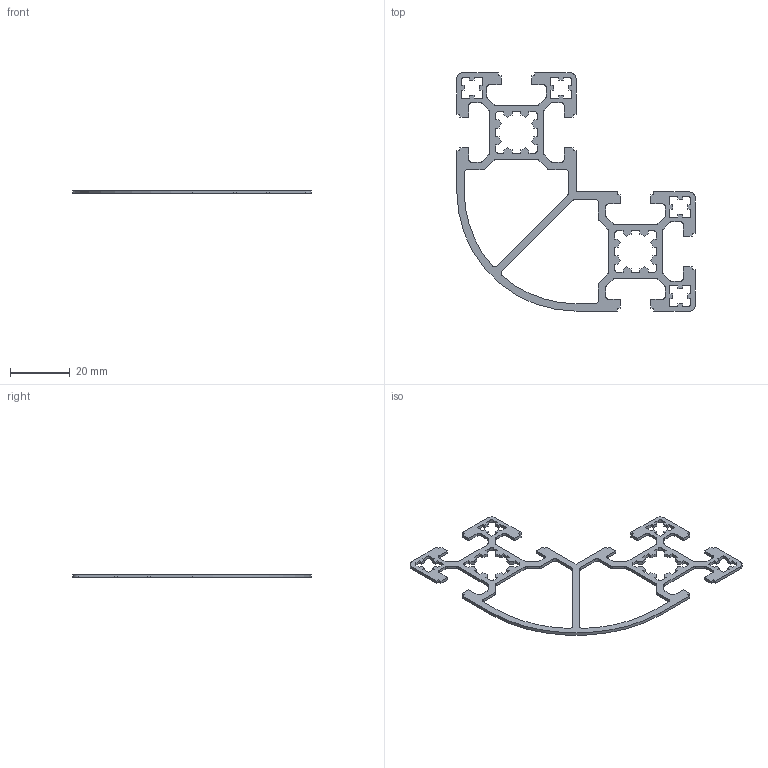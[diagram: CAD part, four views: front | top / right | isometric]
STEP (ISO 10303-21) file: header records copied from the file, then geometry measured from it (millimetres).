
FILE_DESCRIPTION(/* description */ ('STEP AP203'),/* implementation_level */ '2;1');
FILE_NAME(/* name */ 'C:\Users\Stefan.Nesic\Desktop\01010STEP\000Verifica\CORRETTI\PG8080R.stp',/* time_stamp */ '2022-07-12T12:06:33+02:00',/* author */ (''),/* organization */ (''),/* preprocessor_version */ 'ST-DEVELOPER v18.1',/* originating_system */ 'Autodesk Inventor 2021',/* authorisation */ '');
FILE_SCHEMA (('AUTOMOTIVE_DESIGN { 1 0 10303 214 3 1 1 }'));
Length unit declared in the file: millimetre
Products named in the file (1): PG8080R
Bounding box: 80 x 80 x 1 mm (x, y, z)
Volume: 1248.4 mm3; surface area: 3543.2 mm2
Topology: 1 solids, 1 shells, 347 faces, 1035 edges, 690 vertices
Faces by surface type: plane 260, cylinder 87
Entity records: 11656 total; most frequent: CARTESIAN_POINT 2073, ORIENTED_EDGE 2070, DIRECTION 1905, EDGE_CURVE 1035, LINE 861, VECTOR 861, VERTEX_POINT 690, AXIS2_PLACEMENT_3D 522
